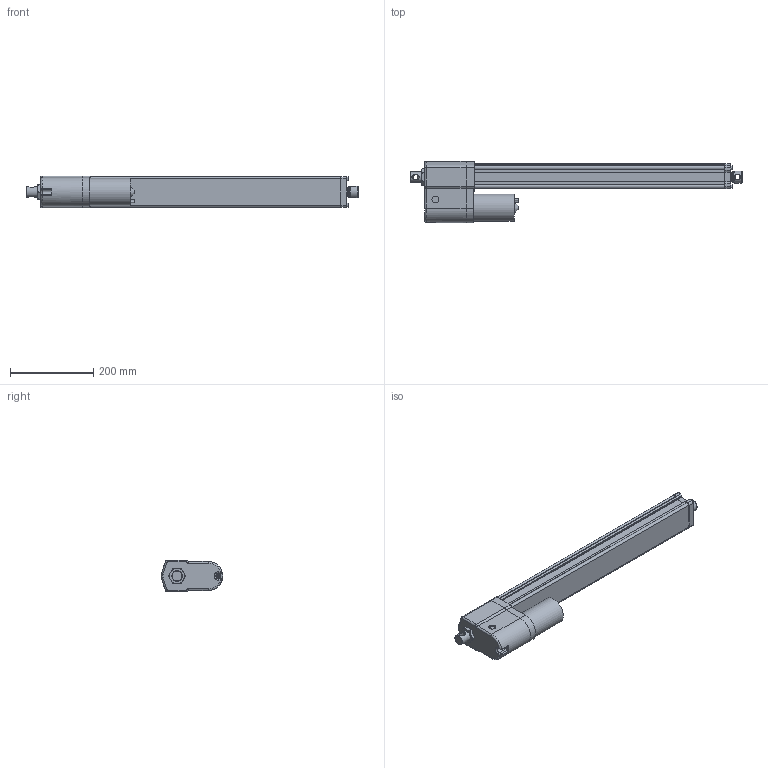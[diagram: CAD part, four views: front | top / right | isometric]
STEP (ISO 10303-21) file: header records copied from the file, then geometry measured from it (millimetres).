
FILE_DESCRIPTION( ( 'STEP AP203' ), '1' );
FILE_NAME( 'p:/temp/worker_343/temp/exporttempdir_696_1303_O9SIs/format_0/DA24-21B65M45M0NPO-AMM.stp', '2020-04-12T18:23:20', ( 'License CC BY-ND 4.0' ), ( 'CADENAS' ), ' ', 'PARTsolutions', ' ' );
FILE_SCHEMA( ( 'CONFIG_CONTROL_DESIGN' ) );
Length unit declared in the file: millimetre
Products named in the file (8): DA24-21B65M45M0NPO-AMM; _ELECTRAK-LA14-DA24-21B65MM0NPO-45M-EU-REAR; _Electrak-10-EU-RA-D602700; _D602768eu; _ELECTRAK-LA14-DA24--MOTOR; _DA24-21B65M45M0NPOAMMtube; _ELECTRAK-LA14-DA24--45-PLATE; _ELECTRAK-LA14-DA24--4521B65MNPOM-ROD
Assembly tree (7 placements, depth 2):
  DA24-21B65M45M0NPO-AMM
    _ELECTRAK-LA14-DA24-21B65MM0NPO-45M-EU-REAR
    _Electrak-10-EU-RA-D602700
    _D602768eu
    _ELECTRAK-LA14-DA24--MOTOR
    _DA24-21B65M45M0NPOAMMtube
    _ELECTRAK-LA14-DA24--45-PLATE
    _ELECTRAK-LA14-DA24--4521B65MNPOM-ROD
Bounding box: 798.95 x 148 x 76.2 mm (x, y, z)
Volume: 2554774.5 mm3; surface area: 591634.8 mm2
Topology: 7 solids, 8 shells, 378 faces, 942 edges, 611 vertices
Faces by surface type: plane 184, cylinder 131, cone 45, torus 14, bspline 4
Full cylindrical faces by diameter (mm): 4 x2, 4.126 x1, 4.8 x5, 5 x5, 5.6 x4, 7.878 x4, 9.398 x1, 12.2 x2, 16 x1, 16.5 x1, 21.8 x1, 25.2 x1, 25.4 x1, 26.24 x1, 28.5 x1, 28.6 x2, 47.625 x1, 65.3 x1
Entity records: 11834 total; most frequent: CARTESIAN_POINT 2729, DIRECTION 1869, ORIENTED_EDGE 1744, EDGE_CURVE 872, AXIS2_PLACEMENT_3D 702, VERTEX_POINT 602, EDGE_LOOP 485, LINE 465
